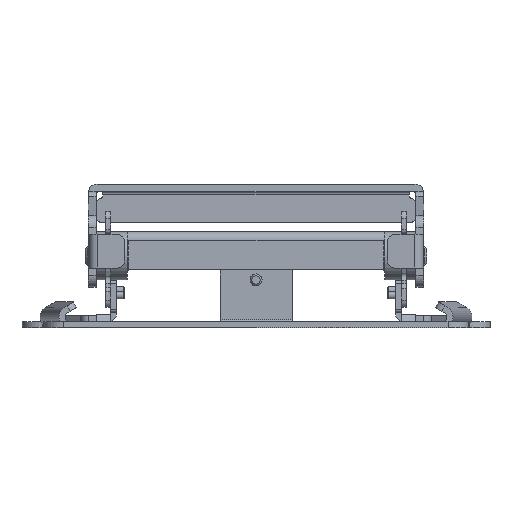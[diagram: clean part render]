
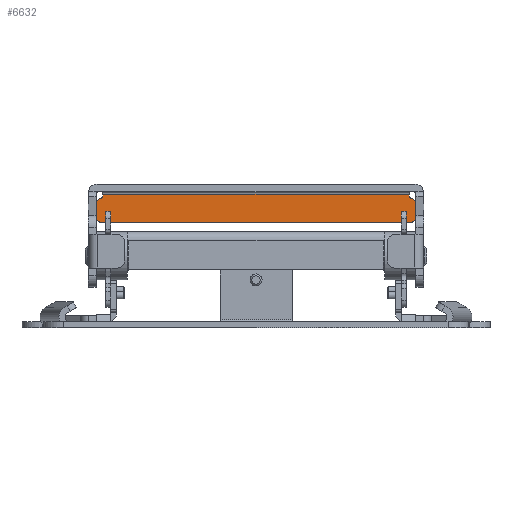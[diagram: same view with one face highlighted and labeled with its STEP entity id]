
A CAD part, front view. The second image highlights one B-rep face of the part: STEP entity #6632.
In plain terms, the highlighted planar face has unit normal (0, -1, 0) as drawn and (0, 0, 1) by its records, which use the part's own axes.
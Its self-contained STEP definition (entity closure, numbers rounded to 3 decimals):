
#44 = CARTESIAN_POINT ( 'NONE',  ( -66.4, 29., 2.6 ) ) ;
#144 = CARTESIAN_POINT ( 'NONE',  ( 63.8, 43., 2.6 ) ) ;
#268 = LINE ( 'NONE', #13100, #16790 ) ;
#329 = CARTESIAN_POINT ( 'NONE',  ( -63.8, 38.8, 2.6 ) ) ;
#1031 = EDGE_CURVE ( 'NONE', #4474, #12697, #7332, .T. ) ;
#1186 = DIRECTION ( 'NONE',  ( 1., 0., 0. ) ) ;
#1294 = VERTEX_POINT ( 'NONE', #8813 ) ;
#1740 = EDGE_CURVE ( 'NONE', #14672, #10525, #13252, .T. ) ;
#1836 = AXIS2_PLACEMENT_3D ( 'NONE', #14912, #7079, #16220 ) ;
#2544 = CIRCLE ( 'NONE', #16720, 1. ) ;
#2822 = EDGE_LOOP ( 'NONE', ( #16417, #5514, #7218, #7492, #4766, #12832, #6096, #16436, #8455, #12323, #7381, #10781 ) ) ;
#2944 = CARTESIAN_POINT ( 'NONE',  ( 63.8, 38., 2.6 ) ) ;
#3044 = EDGE_CURVE ( 'NONE', #9494, #11421, #7893, .T. ) ;
#3218 = CARTESIAN_POINT ( 'NONE',  ( -82.81, 27., 2.6 ) ) ;
#3399 = LINE ( 'NONE', #3218, #13019 ) ;
#3741 = CIRCLE ( 'NONE', #9955, 2. ) ;
#3778 = PLANE ( 'NONE',  #8886 ) ;
#4474 = VERTEX_POINT ( 'NONE', #8858 ) ;
#4560 = CARTESIAN_POINT ( 'NONE',  ( -63.8, 43., 2.6 ) ) ;
#4606 = CARTESIAN_POINT ( 'NONE',  ( -82.81, 38.8, 2.6 ) ) ;
#4616 = DIRECTION ( 'NONE',  ( 0., 0., -1. ) ) ;
#4759 = CARTESIAN_POINT ( 'NONE',  ( 63.8, 38.8, 2.6 ) ) ;
#4766 = ORIENTED_EDGE ( 'NONE', *, *, #16133, .T. ) ;
#4868 = VERTEX_POINT ( 'NONE', #13700 ) ;
#4936 = EDGE_CURVE ( 'NONE', #14672, #4474, #5194, .T. ) ;
#5079 = CARTESIAN_POINT ( 'NONE',  ( -82.81, 43., 2.6 ) ) ;
#5194 = CIRCLE ( 'NONE', #8295, 1. ) ;
#5299 = EDGE_CURVE ( 'NONE', #11421, #15978, #2544, .T. ) ;
#5514 = ORIENTED_EDGE ( 'NONE', *, *, #1031, .T. ) ;
#5728 = EDGE_CURVE ( 'NONE', #6206, #4868, #3741, .T. ) ;
#5868 = AXIS2_PLACEMENT_3D ( 'NONE', #6864, #16000, #8191 ) ;
#5996 = CARTESIAN_POINT ( 'NONE',  ( 66.4, 29., 2.6 ) ) ;
#6096 = ORIENTED_EDGE ( 'NONE', *, *, #10205, .F. ) ;
#6126 = DIRECTION ( 'NONE',  ( 0., -1., 0. ) ) ;
#6206 = VERTEX_POINT ( 'NONE', #44 ) ;
#6252 = VECTOR ( 'NONE', #6126, 1000. ) ;
#6632 = ADVANCED_FACE ( 'NONE', ( #7164 ), #3778, .T. ) ;
#6684 = VECTOR ( 'NONE', #9775, 1000. ) ;
#6815 = CARTESIAN_POINT ( 'NONE',  ( -64.4, 29., 2.6 ) ) ;
#6864 = CARTESIAN_POINT ( 'NONE',  ( 64.4, 29., 2.6 ) ) ;
#7079 = DIRECTION ( 'NONE',  ( 0., 0., 1. ) ) ;
#7164 = FACE_OUTER_BOUND ( 'NONE', #2822, .T. ) ;
#7218 = ORIENTED_EDGE ( 'NONE', *, *, #12320, .T. ) ;
#7317 = LINE ( 'NONE', #4606, #7746 ) ;
#7332 = CIRCLE ( 'NONE', #10417, 2. ) ;
#7338 = DIRECTION ( 'NONE',  ( 0., 0., -1. ) ) ;
#7381 = ORIENTED_EDGE ( 'NONE', *, *, #8275, .T. ) ;
#7492 = ORIENTED_EDGE ( 'NONE', *, *, #5728, .T. ) ;
#7721 = DIRECTION ( 'NONE',  ( 0., -1., 0. ) ) ;
#7727 = CIRCLE ( 'NONE', #5868, 2. ) ;
#7746 = VECTOR ( 'NONE', #8611, 1000. ) ;
#7893 = CIRCLE ( 'NONE', #1836, 2. ) ;
#8141 = DIRECTION ( 'NONE',  ( 0., -1., 0. ) ) ;
#8144 = VECTOR ( 'NONE', #15754, 1000. ) ;
#8191 = DIRECTION ( 'NONE',  ( 0., -1., 0. ) ) ;
#8275 = EDGE_CURVE ( 'NONE', #11989, #10525, #7317, .T. ) ;
#8295 = AXIS2_PLACEMENT_3D ( 'NONE', #15156, #7338, #16471 ) ;
#8455 = ORIENTED_EDGE ( 'NONE', *, *, #5299, .T. ) ;
#8511 = DIRECTION ( 'NONE',  ( 0., -1., 0. ) ) ;
#8568 = CARTESIAN_POINT ( 'NONE',  ( -64.4, 35.027, 2.6 ) ) ;
#8611 = DIRECTION ( 'NONE',  ( -1., 0., 0. ) ) ;
#8685 = DIRECTION ( 'NONE',  ( 0., 0., 1. ) ) ;
#8720 = EDGE_CURVE ( 'NONE', #1294, #10706, #7727, .T. ) ;
#8813 = CARTESIAN_POINT ( 'NONE',  ( 64.4, 27., 2.6 ) ) ;
#8858 = CARTESIAN_POINT ( 'NONE',  ( -64.667, 37.009, 2.6 ) ) ;
#8886 = AXIS2_PLACEMENT_3D ( 'NONE', #5079, #15525, #7721 ) ;
#9494 = VERTEX_POINT ( 'NONE', #16142 ) ;
#9775 = DIRECTION ( 'NONE',  ( 0., 1., 0. ) ) ;
#9955 = AXIS2_PLACEMENT_3D ( 'NONE', #6815, #15955, #8141 ) ;
#10205 = EDGE_CURVE ( 'NONE', #9494, #10706, #16680, .T. ) ;
#10417 = AXIS2_PLACEMENT_3D ( 'NONE', #8568, #8685, #8511 ) ;
#10525 = VERTEX_POINT ( 'NONE', #329 ) ;
#10706 = VERTEX_POINT ( 'NONE', #5996 ) ;
#10781 = ORIENTED_EDGE ( 'NONE', *, *, #1740, .F. ) ;
#11384 = CARTESIAN_POINT ( 'NONE',  ( -66.4, 35.027, 2.6 ) ) ;
#11421 = VERTEX_POINT ( 'NONE', #13876 ) ;
#11989 = VERTEX_POINT ( 'NONE', #4759 ) ;
#12320 = EDGE_CURVE ( 'NONE', #12697, #6206, #268, .T. ) ;
#12323 = ORIENTED_EDGE ( 'NONE', *, *, #14827, .F. ) ;
#12471 = CARTESIAN_POINT ( 'NONE',  ( 64.8, 38., 2.6 ) ) ;
#12613 = CARTESIAN_POINT ( 'NONE',  ( 66.4, 43., 2.6 ) ) ;
#12697 = VERTEX_POINT ( 'NONE', #11384 ) ;
#12832 = ORIENTED_EDGE ( 'NONE', *, *, #8720, .T. ) ;
#13019 = VECTOR ( 'NONE', #1186, 1000. ) ;
#13049 = DIRECTION ( 'NONE',  ( 0., -1., 0. ) ) ;
#13100 = CARTESIAN_POINT ( 'NONE',  ( -66.4, 43., 2.6 ) ) ;
#13252 = LINE ( 'NONE', #4560, #6684 ) ;
#13700 = CARTESIAN_POINT ( 'NONE',  ( -64.4, 27., 2.6 ) ) ;
#13774 = DIRECTION ( 'NONE',  ( 0., -1., 0. ) ) ;
#13876 = CARTESIAN_POINT ( 'NONE',  ( 64.667, 37.009, 2.6 ) ) ;
#14178 = CARTESIAN_POINT ( 'NONE',  ( -63.8, 38., 2.6 ) ) ;
#14672 = VERTEX_POINT ( 'NONE', #14178 ) ;
#14827 = EDGE_CURVE ( 'NONE', #11989, #15978, #15086, .T. ) ;
#14912 = CARTESIAN_POINT ( 'NONE',  ( 64.4, 35.027, 2.6 ) ) ;
#15086 = LINE ( 'NONE', #144, #8144 ) ;
#15156 = CARTESIAN_POINT ( 'NONE',  ( -64.8, 38., 2.6 ) ) ;
#15525 = DIRECTION ( 'NONE',  ( 0., 0., 1. ) ) ;
#15754 = DIRECTION ( 'NONE',  ( 0., -1., 0. ) ) ;
#15955 = DIRECTION ( 'NONE',  ( 0., 0., 1. ) ) ;
#15978 = VERTEX_POINT ( 'NONE', #2944 ) ;
#16000 = DIRECTION ( 'NONE',  ( 0., 0., 1. ) ) ;
#16133 = EDGE_CURVE ( 'NONE', #4868, #1294, #3399, .T. ) ;
#16142 = CARTESIAN_POINT ( 'NONE',  ( 66.4, 35.027, 2.6 ) ) ;
#16220 = DIRECTION ( 'NONE',  ( 0., -1., 0. ) ) ;
#16417 = ORIENTED_EDGE ( 'NONE', *, *, #4936, .T. ) ;
#16436 = ORIENTED_EDGE ( 'NONE', *, *, #3044, .T. ) ;
#16471 = DIRECTION ( 'NONE',  ( 0., -1., 0. ) ) ;
#16680 = LINE ( 'NONE', #12613, #6252 ) ;
#16720 = AXIS2_PLACEMENT_3D ( 'NONE', #12471, #4616, #13774 ) ;
#16790 = VECTOR ( 'NONE', #13049, 1000. ) ;
